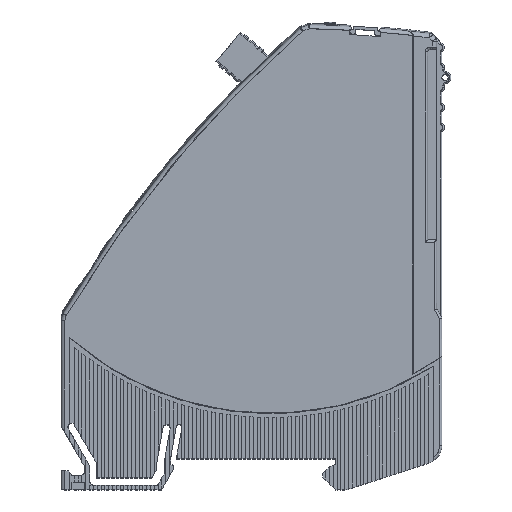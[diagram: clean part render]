
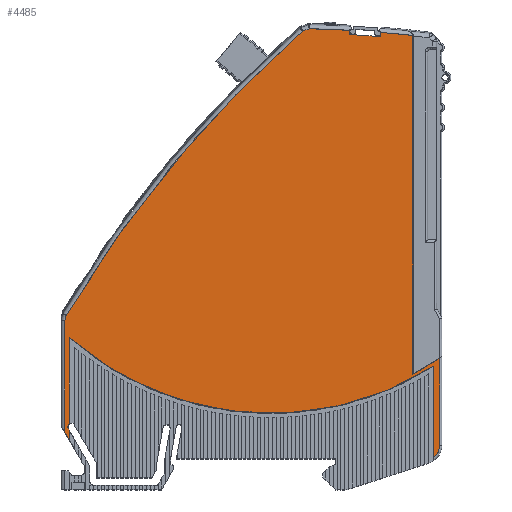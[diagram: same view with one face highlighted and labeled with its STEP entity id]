
A CAD part, top view. The second image highlights one B-rep face of the part: STEP entity #4485.
In plain terms, the highlighted planar face has unit normal (0, 0, 1).
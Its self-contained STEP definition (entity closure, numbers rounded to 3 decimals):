
#4233=CARTESIAN_POINT('',(39.5,2.906,6.15));
#4234=CARTESIAN_POINT('',(39.499,2.653,6.15));
#4235=CARTESIAN_POINT('',(39.447,2.161,6.15));
#4236=CARTESIAN_POINT('',(39.21,1.446,6.15));
#4237=CARTESIAN_POINT('',(38.827,0.798,6.15));
#4238=CARTESIAN_POINT('',(38.49,0.435,6.15));
#4239=CARTESIAN_POINT('',(38.3,0.268,6.15));
#4244=DIRECTION('',(0.,1.,0.));
#4245=VECTOR('',#4244,19.2);
#4246=CARTESIAN_POINT('',(38.3,0.268,6.15));
#4247=LINE('',#4246,#4245);
#4251=CARTESIAN_POINT('',(38.3,19.468,6.15));
#4252=CARTESIAN_POINT('',(36.179,18.123,6.15));
#4253=CARTESIAN_POINT('',(31.817,15.699,6.15));
#4254=CARTESIAN_POINT('',(24.867,12.842,6.15));
#4255=CARTESIAN_POINT('',(17.642,10.821,6.15));
#4256=CARTESIAN_POINT('',(10.23,9.657,6.15));
#4257=CARTESIAN_POINT('',(2.735,9.366,6.15));
#4258=CARTESIAN_POINT('',(-4.743,9.952,6.15));
#4259=CARTESIAN_POINT('',(-12.102,11.408,6.15));
#4260=CARTESIAN_POINT('',(-19.242,13.712,6.15));
#4261=CARTESIAN_POINT('',(-26.064,16.835,6.15));
#4262=CARTESIAN_POINT('',(-32.483,20.739,6.15));
#4263=CARTESIAN_POINT('',(-36.415,23.813,6.15));
#4264=CARTESIAN_POINT('',(-38.3,25.472,6.15));
#4269=DIRECTION('',(0.,-1.,0.));
#4270=VECTOR('',#4269,18.192);
#4271=CARTESIAN_POINT('',(-38.3,25.472,6.15));
#4272=LINE('',#4271,#4270);
#4276=CARTESIAN_POINT('',(-38.3,7.279,6.15));
#4277=CARTESIAN_POINT('',(-38.368,7.212,6.15));
#4278=CARTESIAN_POINT('',(-38.476,7.067,6.15));
#4279=CARTESIAN_POINT('',(-38.554,6.816,6.15));
#4280=CARTESIAN_POINT('',(-38.55,6.553,6.15));
#4281=CARTESIAN_POINT('',(-38.487,6.384,6.15));
#4282=CARTESIAN_POINT('',(-38.441,6.3,6.15));
#4287=DIRECTION('',(0.5,-0.866,0.));
#4288=VECTOR('',#4287,0.282);
#4289=CARTESIAN_POINT('',(-38.441,6.3,6.15));
#4290=LINE('',#4289,#4288);
#4294=DIRECTION('',(0.,-1.,0.));
#4295=VECTOR('',#4294,2.);
#4296=CARTESIAN_POINT('',(-38.3,6.056,6.15));
#4297=LINE('',#4296,#4295);
#4301=DIRECTION('',(-0.5,0.866,0.));
#4302=VECTOR('',#4301,1.8);
#4303=CARTESIAN_POINT('',(-38.3,4.056,6.15));
#4304=LINE('',#4303,#4302);
#4308=DIRECTION('',(0.,1.,0.));
#4309=VECTOR('',#4308,23.431);
#4310=CARTESIAN_POINT('',(-39.2,5.614,6.15));
#4311=LINE('',#4310,#4309);
#4315=DIRECTION('',(0.263,0.965,0.));
#4316=VECTOR('',#4315,1.151);
#4317=CARTESIAN_POINT('',(-39.2,29.046,6.15));
#4318=LINE('',#4317,#4316);
#4322=CARTESIAN_POINT('',(-38.897,30.156,6.15));
#4323=CARTESIAN_POINT('',(-36.24,34.631,6.15));
#4324=CARTESIAN_POINT('',(-30.658,43.393,6.15));
#4325=CARTESIAN_POINT('',(-21.459,55.996,6.15));
#4326=CARTESIAN_POINT('',(-11.486,67.988,6.15));
#4327=CARTESIAN_POINT('',(-0.77,79.33,6.15));
#4328=CARTESIAN_POINT('',(6.828,86.416,6.15));
#4329=CARTESIAN_POINT('',(10.744,89.843,6.15));
#4334=DIRECTION('',(0.94,0.342,0.));
#4335=VECTOR('',#4334,1.497);
#4336=CARTESIAN_POINT('',(10.744,89.843,6.15));
#4337=LINE('',#4336,#4335);
#4341=CARTESIAN_POINT('',(12.15,90.355,6.15));
#4342=CARTESIAN_POINT('',(13.096,90.335,6.15));
#4343=CARTESIAN_POINT('',(14.988,90.285,6.15));
#4344=CARTESIAN_POINT('',(17.825,90.178,6.15));
#4345=CARTESIAN_POINT('',(19.715,90.085,6.15));
#4346=CARTESIAN_POINT('',(20.66,90.033,6.15));
#4351=DIRECTION('',(-0.07,-0.998,0.));
#4352=VECTOR('',#4351,0.881);
#4353=CARTESIAN_POINT('',(20.66,90.033,6.15));
#4354=LINE('',#4353,#4352);
#4358=DIRECTION('',(0.998,-0.07,0.));
#4359=VECTOR('',#4358,6.46);
#4360=CARTESIAN_POINT('',(20.598,89.154,6.15));
#4361=LINE('',#4360,#4359);
#4365=DIRECTION('',(0.07,0.998,0.));
#4366=VECTOR('',#4365,0.894);
#4367=CARTESIAN_POINT('',(27.042,88.704,6.15));
#4368=LINE('',#4367,#4366);
#4372=CARTESIAN_POINT('',(27.105,89.595,6.15));
#4373=CARTESIAN_POINT('',(27.853,89.534,6.15));
#4374=CARTESIAN_POINT('',(29.348,89.406,6.15));
#4375=CARTESIAN_POINT('',(31.588,89.194,6.15));
#4376=CARTESIAN_POINT('',(33.081,89.039,6.15));
#4377=CARTESIAN_POINT('',(33.827,88.958,6.15));
#4382=DIRECTION('',(0.,-1.,0.));
#4383=VECTOR('',#4382,71.177);
#4384=CARTESIAN_POINT('',(33.827,88.958,6.15));
#4385=LINE('',#4384,#4383);
#4389=CARTESIAN_POINT('',(33.827,17.781,6.15));
#4390=CARTESIAN_POINT('',(34.477,18.129,6.15));
#4391=CARTESIAN_POINT('',(35.764,18.847,6.15));
#4392=CARTESIAN_POINT('',(37.656,19.992,6.15));
#4393=CARTESIAN_POINT('',(38.89,20.798,6.15));
#4394=CARTESIAN_POINT('',(39.5,21.212,6.15));
#4399=DIRECTION('',(0.,-1.,0.));
#4400=VECTOR('',#4399,18.306);
#4401=CARTESIAN_POINT('',(39.5,21.212,6.15));
#4402=LINE('',#4401,#4400);
#4406=VERTEX_POINT('',#4233);
#4407=VERTEX_POINT('',#4239);
#4408=CARTESIAN_POINT('',(38.3,19.468,6.15));
#4409=VERTEX_POINT('',#4408);
#4410=VERTEX_POINT('',#4264);
#4411=CARTESIAN_POINT('',(-38.3,7.279,6.15));
#4412=VERTEX_POINT('',#4411);
#4413=VERTEX_POINT('',#4282);
#4414=CARTESIAN_POINT('',(-38.3,6.056,6.15));
#4415=VERTEX_POINT('',#4414);
#4416=CARTESIAN_POINT('',(-38.3,4.056,6.15));
#4417=VERTEX_POINT('',#4416);
#4418=CARTESIAN_POINT('',(-39.2,5.614,6.15));
#4419=VERTEX_POINT('',#4418);
#4420=CARTESIAN_POINT('',(-39.2,29.046,6.15));
#4421=VERTEX_POINT('',#4420);
#4422=CARTESIAN_POINT('',(-38.897,30.156,6.15));
#4423=VERTEX_POINT('',#4422);
#4424=VERTEX_POINT('',#4329);
#4425=CARTESIAN_POINT('',(12.15,90.355,6.15));
#4426=VERTEX_POINT('',#4425);
#4427=VERTEX_POINT('',#4346);
#4428=CARTESIAN_POINT('',(20.598,89.154,6.15));
#4429=VERTEX_POINT('',#4428);
#4430=CARTESIAN_POINT('',(27.042,88.704,6.15));
#4431=VERTEX_POINT('',#4430);
#4432=CARTESIAN_POINT('',(27.105,89.595,6.15));
#4433=VERTEX_POINT('',#4432);
#4434=VERTEX_POINT('',#4377);
#4435=CARTESIAN_POINT('',(33.827,17.781,6.15));
#4436=VERTEX_POINT('',#4435);
#4437=VERTEX_POINT('',#4394);
#4438=CARTESIAN_POINT('',(0.15,45.311,6.15));
#4439=DIRECTION('',(0.,0.,1.));
#4440=DIRECTION('',(1.,0.,0.));
#4441=AXIS2_PLACEMENT_3D('',#4438,#4439,#4440);
#4442=PLANE('',#4441);
#4444=ORIENTED_EDGE('',*,*,#4443,.T.);
#4446=ORIENTED_EDGE('',*,*,#4445,.T.);
#4448=ORIENTED_EDGE('',*,*,#4447,.T.);
#4450=ORIENTED_EDGE('',*,*,#4449,.T.);
#4452=ORIENTED_EDGE('',*,*,#4451,.T.);
#4454=ORIENTED_EDGE('',*,*,#4453,.T.);
#4456=ORIENTED_EDGE('',*,*,#4455,.T.);
#4458=ORIENTED_EDGE('',*,*,#4457,.T.);
#4460=ORIENTED_EDGE('',*,*,#4459,.T.);
#4462=ORIENTED_EDGE('',*,*,#4461,.T.);
#4464=ORIENTED_EDGE('',*,*,#4463,.T.);
#4466=ORIENTED_EDGE('',*,*,#4465,.T.);
#4468=ORIENTED_EDGE('',*,*,#4467,.T.);
#4470=ORIENTED_EDGE('',*,*,#4469,.T.);
#4472=ORIENTED_EDGE('',*,*,#4471,.T.);
#4474=ORIENTED_EDGE('',*,*,#4473,.T.);
#4476=ORIENTED_EDGE('',*,*,#4475,.T.);
#4478=ORIENTED_EDGE('',*,*,#4477,.T.);
#4480=ORIENTED_EDGE('',*,*,#4479,.T.);
#4482=ORIENTED_EDGE('',*,*,#4481,.T.);
#4483=EDGE_LOOP('',(#4444,#4446,#4448,#4450,#4452,#4454,#4456,#4458,#4460,#4462,
#4464,#4466,#4468,#4470,#4472,#4474,#4476,#4478,#4480,#4482));
#4484=FACE_OUTER_BOUND('',#4483,.F.);
#4240=B_SPLINE_CURVE_WITH_KNOTS('',3,(#4233,#4234,#4235,#4236,#4237,#4238,
#4239),.UNSPECIFIED.,.F.,.F.,(4,1,1,1,4),(0.,0.25,0.5,0.75,1.),
.UNSPECIFIED.);
#4265=B_SPLINE_CURVE_WITH_KNOTS('',3,(#4251,#4252,#4253,#4254,#4255,#4256,#4257,
#4258,#4259,#4260,#4261,#4262,#4263,#4264),.UNSPECIFIED.,.F.,.F.,(4,1,1,1,1,1,1,
1,1,1,1,4),(0.,0.091,0.182,0.273,
0.364,0.455,0.545,0.636,
0.727,0.818,0.909,1.),.UNSPECIFIED.);
#4283=B_SPLINE_CURVE_WITH_KNOTS('',3,(#4276,#4277,#4278,#4279,#4280,#4281,
#4282),.UNSPECIFIED.,.F.,.F.,(4,1,1,1,4),(0.,0.25,0.5,0.75,1.),
.UNSPECIFIED.);
#4330=B_SPLINE_CURVE_WITH_KNOTS('',3,(#4322,#4323,#4324,#4325,#4326,#4327,#4328,
#4329),.UNSPECIFIED.,.F.,.F.,(4,1,1,1,1,4),(0.,0.2,0.4,0.6,0.8,1.),
.UNSPECIFIED.);
#4347=B_SPLINE_CURVE_WITH_KNOTS('',3,(#4341,#4342,#4343,#4344,#4345,#4346),
.UNSPECIFIED.,.F.,.F.,(4,1,1,4),(0.,0.333,0.667,1.),
.UNSPECIFIED.);
#4378=B_SPLINE_CURVE_WITH_KNOTS('',3,(#4372,#4373,#4374,#4375,#4376,#4377),
.UNSPECIFIED.,.F.,.F.,(4,1,1,4),(0.,0.333,0.667,1.),
.UNSPECIFIED.);
#4395=B_SPLINE_CURVE_WITH_KNOTS('',3,(#4389,#4390,#4391,#4392,#4393,#4394),
.UNSPECIFIED.,.F.,.F.,(4,1,1,4),(0.,0.333,0.667,1.),
.UNSPECIFIED.);
#4443=EDGE_CURVE('',#4406,#4407,#4240,.T.);
#4445=EDGE_CURVE('',#4407,#4409,#4247,.T.);
#4447=EDGE_CURVE('',#4409,#4410,#4265,.T.);
#4449=EDGE_CURVE('',#4410,#4412,#4272,.T.);
#4451=EDGE_CURVE('',#4412,#4413,#4283,.T.);
#4453=EDGE_CURVE('',#4413,#4415,#4290,.T.);
#4455=EDGE_CURVE('',#4415,#4417,#4297,.T.);
#4457=EDGE_CURVE('',#4417,#4419,#4304,.T.);
#4459=EDGE_CURVE('',#4419,#4421,#4311,.T.);
#4461=EDGE_CURVE('',#4421,#4423,#4318,.T.);
#4463=EDGE_CURVE('',#4423,#4424,#4330,.T.);
#4465=EDGE_CURVE('',#4424,#4426,#4337,.T.);
#4467=EDGE_CURVE('',#4426,#4427,#4347,.T.);
#4469=EDGE_CURVE('',#4427,#4429,#4354,.T.);
#4471=EDGE_CURVE('',#4429,#4431,#4361,.T.);
#4473=EDGE_CURVE('',#4431,#4433,#4368,.T.);
#4475=EDGE_CURVE('',#4433,#4434,#4378,.T.);
#4477=EDGE_CURVE('',#4434,#4436,#4385,.T.);
#4479=EDGE_CURVE('',#4436,#4437,#4395,.T.);
#4481=EDGE_CURVE('',#4437,#4406,#4402,.T.);
#4485=ADVANCED_FACE('',(#4484),#4442,.T.);
